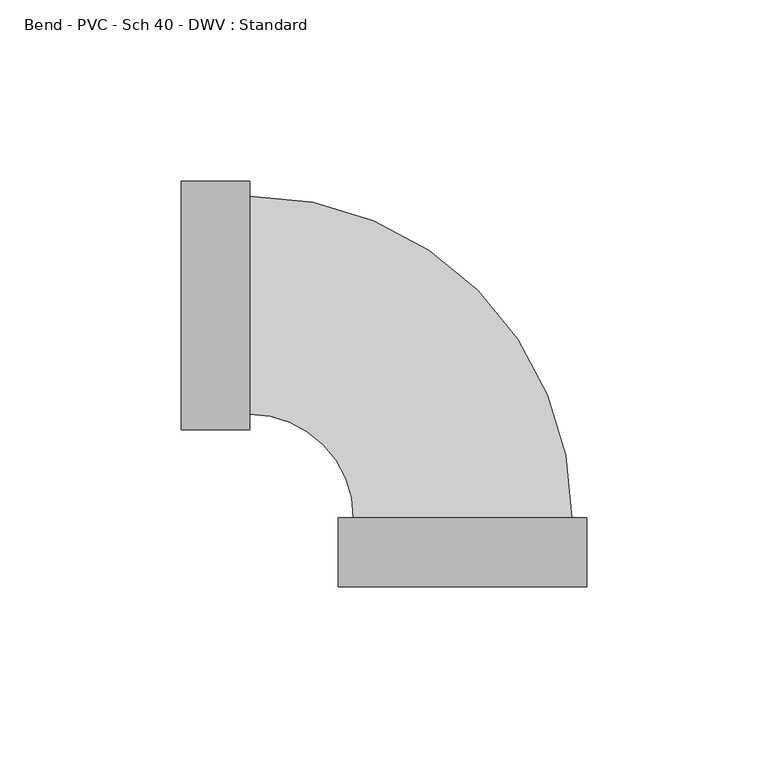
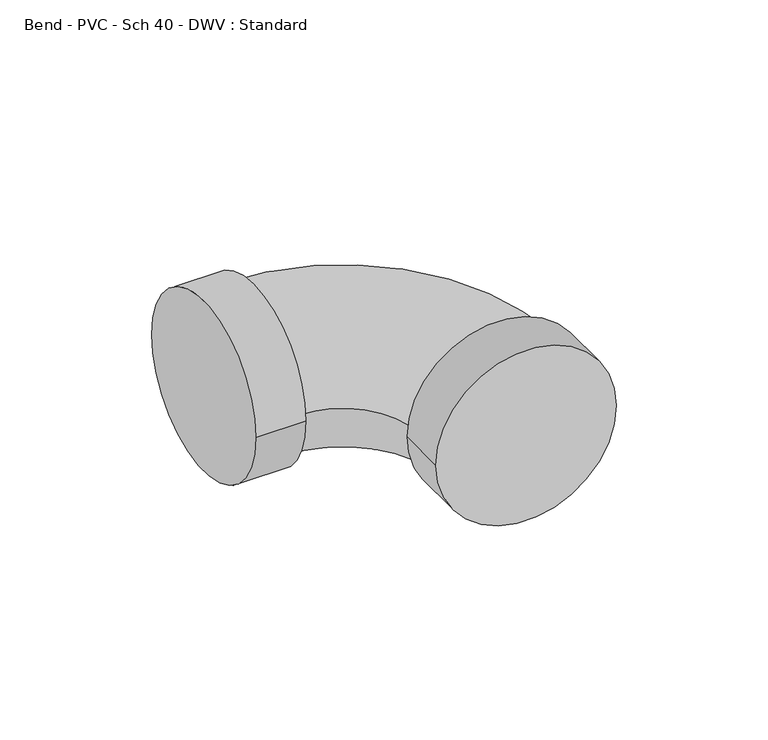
"""IFC4 building model written with IfcOpenShell, lengths in millimetres: pipe fitting geometry, Bend - PVC - Sch 40 - DWV : Standard."""

from ifc_helpers import new_model, si_unit, point, frame, origin, place, context, project, spatial, circle_curve, ellipse_curve, trimmed, source, transform, mapped, element, save
from ifc_brep_helpers import plane_surface, cylinder_surface, revolved_surface, advanced_brep


def bend_pvc_sch_40_dwv_standard_48e93688(model_context):
    return source(origin(), model_context, "Body", "AdvancedBrep", [
        advanced_brep(
        [(-77.8002, 34.3154, 0.0), (-77.8002, -34.3154, 0.0), (-58.7502, 34.3154, 0.0), (-58.7502, -34.3154, 0.0), (-58.7502, 30.1625, 0.0), (-58.7502, -30.1625, 0.0), (-30.1624993, -58.7502004, 0.0), (30.1625007, -58.7501996, 0.0), (34.3154007, -58.7501996, 0.0), (-34.3153993, -58.7502004, 0.0), (34.315401, -77.8001996, 0.0), (-34.315399, -77.8002004, 0.0)],
        [
            (0, 1, circle_curve(frame((-77.8002, 0.0, 0.0), z_axis=(-1.0, 0.0, 0.0), x_axis=(0.0, -1.0, 0.0)), 34.3154)),
            (1, 0, circle_curve(frame((-77.8002, 0.0, 0.0), z_axis=(-1.0, 0.0, 0.0), x_axis=(0.0, -1.0, 0.0)), 34.3154)),
            (2, 3, circle_curve(frame((-58.7502, 0.0, 0.0), z_axis=(1.0, 0.0, 0.0), x_axis=(0.0, -1.0, 0.0)), 34.3154)),
            (3, 2, circle_curve(frame((-58.7502, 0.0, 0.0), z_axis=(1.0, 0.0, 0.0), x_axis=(0.0, -1.0, 0.0)), 34.3154)),
            (4, 5, circle_curve(frame((-58.7502, 0.0, 0.0), z_axis=(-1.0, 0.0, 0.0), x_axis=(0.0, -1.0, 0.0)), 30.1625)),
            (5, 4, circle_curve(frame((-58.7502, 0.0, 0.0), z_axis=(-1.0, 0.0, 0.0), x_axis=(0.0, -1.0, 0.0)), 30.1625)),
            (1, 3),
            (2, 0),
            (6, 7, circle_curve(frame((7e-07, -58.7502, 0.0), z_axis=(-1.2572905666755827e-08, 0.9999999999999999, 0.0), x_axis=(-0.9999999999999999, -1.2572905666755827e-08, 0.0)), 30.1625)),
            (7, 4, circle_curve(frame((-58.7502, -58.7502007, 0.0), z_axis=(0.0, 0.0, 1.0), x_axis=(0.0, 1.0, 0.0)), 88.9127007)),
            (5, 6, circle_curve(frame((-58.7502, -58.7502007, 0.0), z_axis=(0.0, 0.0, -1.0), x_axis=(0.0, 1.0, 0.0)), 28.5877007)),
            (7, 6, circle_curve(frame((7e-07, -58.7502, 0.0), z_axis=(-1.2572905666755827e-08, 0.9999999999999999, 0.0), x_axis=(-0.9999999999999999, -1.2572905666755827e-08, 0.0)), 30.1625)),
            (8, 9, circle_curve(frame((7e-07, -58.7502, 0.0), z_axis=(-1.2572907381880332e-08, 1.0, 0.0), x_axis=(-1.0, -1.2572907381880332e-08, 0.0)), 34.3154)),
            (9, 8, circle_curve(frame((7e-07, -58.7502, 0.0), z_axis=(-1.2572907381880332e-08, 1.0, 0.0), x_axis=(-1.0, -1.2572907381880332e-08, 0.0)), 34.3154)),
            (10, 11, circle_curve(frame((1e-06, -77.8002, 0.0), z_axis=(1.2572907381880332e-08, -1.0, 0.0), x_axis=(-1.0, -1.2572907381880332e-08, 0.0)), 34.3154)),
            (11, 10, circle_curve(frame((1e-06, -77.8002, 0.0), z_axis=(1.2572907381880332e-08, -1.0, 0.0), x_axis=(-1.0, -1.2572907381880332e-08, 0.0)), 34.3154)),
            (9, 11),
            (10, 8),
        ],
        [
            plane_surface(frame((-77.8002, 0.0, 0.0), z_axis=(-1.0, 0.0, 0.0), x_axis=(0.0, 0.0, 1.0))),
            plane_surface(frame((-58.7502, 0.0, 0.0), z_axis=(1.0, 0.0, 0.0), x_axis=(0.0, 0.0, 1.0))),
            cylinder_surface(frame((-77.8002, 0.0, 0.0), z_axis=(-1.0, 0.0, 0.0), x_axis=(0.0, -1.0, 0.0)), 34.3154),
            revolved_surface(trimmed(ellipse_curve(frame((-58.7502, 0.0, 0.0), z_axis=(1.0, 0.0, 0.0), x_axis=(0.0, -1.0, 0.0)), 30.1625, 30.1625), [point((-58.7502, 30.1625, 0.0))], [point((-58.7502, -30.1625, 0.0))], True, "CARTESIAN"), (-58.7502, -58.7502007, 0.0), (0.0, 0.0, 1.0)),
            revolved_surface(trimmed(ellipse_curve(frame((-58.7502, 0.0, 0.0), z_axis=(1.0, 0.0, 0.0), x_axis=(0.0, -1.0, 0.0)), 30.1625, 30.1625), [point((-58.7502, -30.1625, 0.0))], [point((-58.7502, 30.1625, 0.0))], True, "CARTESIAN"), (-58.7502, -58.7502007, 0.0), (0.0, 0.0, 1.0)),
            plane_surface(frame((7e-07, -58.7502, 0.0), z_axis=(-1.2572907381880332e-08, 1.0, 0.0), x_axis=(0.0, 0.0, 1.0))),
            plane_surface(frame((1e-06, -77.8002, 0.0), z_axis=(1.2572907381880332e-08, -1.0, 0.0), x_axis=(0.0, 0.0, 1.0))),
            cylinder_surface(frame((7e-07, -58.7502, 0.0), z_axis=(-1.2572907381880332e-08, 1.0, 0.0), x_axis=(-1.0, -1.2572907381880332e-08, 0.0)), 34.3154),
        ],
        [
            (0, [[1, 2]]),
            (1, [[3, 4], [5, 6]]),
            (2, [[7, -3, 8, -2]]),
            (2, [[-8, -4, -7, -1]]),
            (3, [[9, 10, -6, 11]]),
            (4, [[-5, -10, 12, -11]]),
            (5, [[13, 14], [-12, -9]]),
            (6, [[15, 16]]),
            (7, [[17, -15, 18, -14]]),
            (7, [[-18, -16, -17, -13]]),
        ],
    ),
    ])


if __name__ == "__main__":
    model = new_model("IFC4")
    model_context = context("Model", 3, world=origin())
    ifc_project = project(units=[si_unit("LENGTHUNIT", "METRE", prefix="MILLI")], contexts=[model_context])
    site = spatial("IfcSite", under=ifc_project)
    building = spatial("IfcBuilding", under=site)
    placement = place(None, origin())
    bend_pvc_sch_40_dwv_standard_shape = bend_pvc_sch_40_dwv_standard_48e93688(model_context)
    element("IfcPipeFitting", 1, ObjectType="Bend - PVC - Sch 40 - DWV : Standard", at=placement, inside=building, context=model_context, shape_type="MappedRepresentation", body=[
        mapped(bend_pvc_sch_40_dwv_standard_shape, transform((0.0, 0.0, 0.0), x_axis=(1.0, 0.0, 0.0), y_axis=(0.0, 1.0, 0.0), z_axis=(0.0, 0.0, 1.0))),
    ])
    save(model, "model.ifc")
